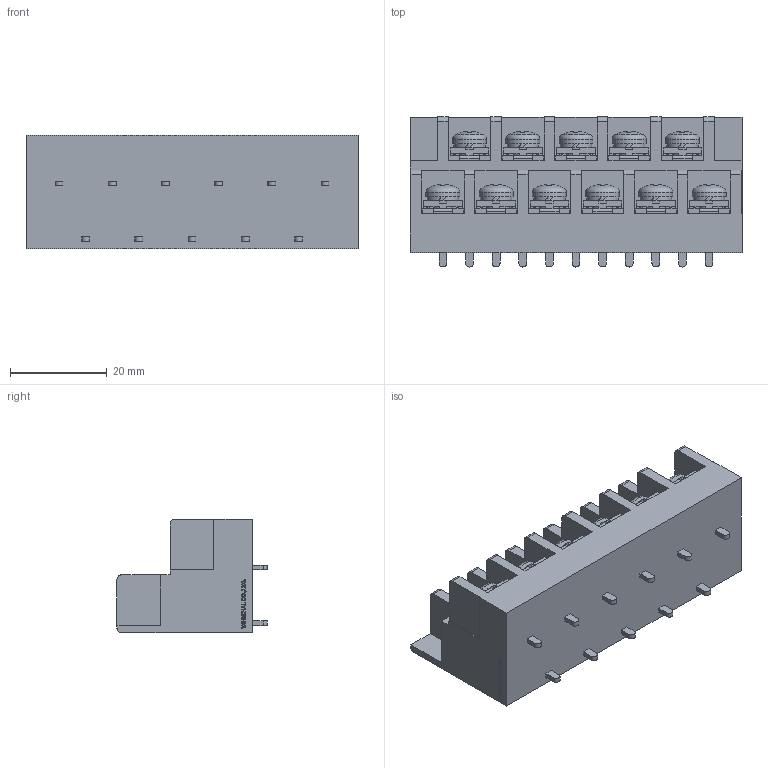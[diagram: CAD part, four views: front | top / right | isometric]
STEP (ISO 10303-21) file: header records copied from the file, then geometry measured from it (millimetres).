
FILE_DESCRIPTION(/* description */ ('Alibre Inc.'),/* implementation_level */ '2;1');
FILE_NAME(/* name */ 'export0',/* time_stamp */ '2016-08-06T13:57:46+09:00',/* author */ (''),/* organization */ (''),/* preprocessor_version */ 'ST-DEVELOPER v14',/* originating_system */ 'Alibre',/* authorisation */ '');
FILE_SCHEMA (('CONFIG_CONTROL_DESIGN'));
Length unit declared in the file: centimetre
Products named in the file (1): ID_1
Bounding box: 68.6 x 31 x 23.5 mm (x, y, z)
Volume: 28888.7 mm3; surface area: 13611.3 mm2
Topology: 1 solids, 97 shells, 2350 faces, 6148 edges, 4051 vertices
Faces by surface type: plane 1818, bspline 364, cylinder 91, cone 44, torus 22, sphere 11
Full cylindrical faces by diameter (mm): 4 x11, 7 x11
Entity records: 68719 total; most frequent: CARTESIAN_POINT 15826, ORIENTED_EDGE 12274, DIRECTION 7670, EDGE_CURVE 6093, VECTOR 4617, LINE 4617, VERTEX_POINT 4040, EDGE_LOOP 2545
